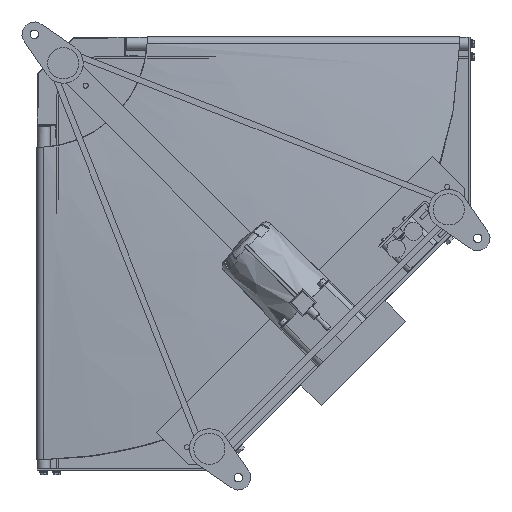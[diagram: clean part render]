
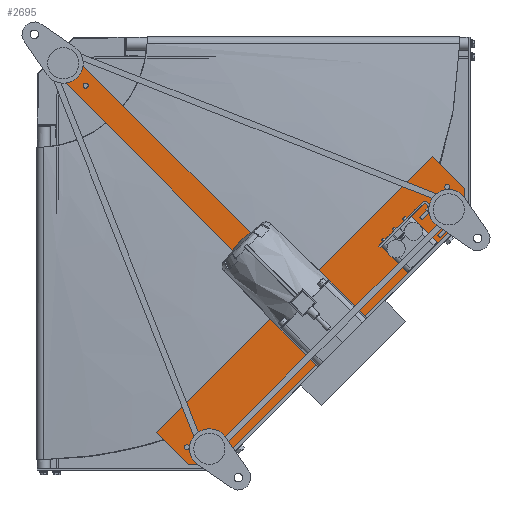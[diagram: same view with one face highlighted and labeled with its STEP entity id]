
A CAD part, front view. The second image highlights one B-rep face of the part: STEP entity #2695.
In plain terms, the highlighted planar face has unit normal (0, -1, 0).
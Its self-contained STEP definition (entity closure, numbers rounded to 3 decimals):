
#2695=ADVANCED_FACE('',(#6698),#6697,.T.);
#6697=PLANE('',#15779);
#6698=FACE_OUTER_BOUND('',#15780,.T.);
#15776=CARTESIAN_POINT('',(5.203,-167.5,-5.203));
#15777=DIRECTION('',(0.,-1.,0.));
#15778=DIRECTION('',(0.,0.,-1.));
#15779=AXIS2_PLACEMENT_3D('',#15776,#15777,#15778);
#15780=EDGE_LOOP('',(#25325,#25326,#25327,#25328,#25329,#25330,#25331,#25332,#25333,#25334));
#25325=ORIENTED_EDGE('',*,*,#29583,.F.);
#25326=ORIENTED_EDGE('',*,*,#29587,.F.);
#25327=ORIENTED_EDGE('',*,*,#29565,.F.);
#25328=ORIENTED_EDGE('',*,*,#29573,.F.);
#25329=ORIENTED_EDGE('',*,*,#29588,.F.);
#25330=ORIENTED_EDGE('',*,*,#29589,.F.);
#25331=ORIENTED_EDGE('',*,*,#29569,.F.);
#25332=ORIENTED_EDGE('',*,*,#29590,.F.);
#25333=ORIENTED_EDGE('',*,*,#29591,.F.);
#25334=ORIENTED_EDGE('',*,*,#29559,.F.);
#29559=EDGE_CURVE('',#36587,#36588,#36589,.T.);
#29565=EDGE_CURVE('',#36629,#36630,#36631,.T.);
#29569=EDGE_CURVE('',#36657,#36658,#36659,.T.);
#29573=EDGE_CURVE('',#36685,#36629,#36686,.T.);
#29583=EDGE_CURVE('',#36752,#36587,#36753,.T.);
#29587=EDGE_CURVE('',#36630,#36752,#36778,.T.);
#29588=EDGE_CURVE('',#36784,#36685,#36785,.T.);
#29589=EDGE_CURVE('',#36658,#36784,#36791,.T.);
#29590=EDGE_CURVE('',#36797,#36657,#36798,.T.);
#29591=EDGE_CURVE('',#36588,#36797,#36804,.T.);
#36587=VERTEX_POINT('',#51565);
#36588=VERTEX_POINT('',#51566);
#36589=LINE('',#51567,#51568);
#36629=VERTEX_POINT('',#51591);
#36630=VERTEX_POINT('',#51592);
#36631=LINE('',#51593,#51594);
#36657=VERTEX_POINT('',#51607);
#36658=VERTEX_POINT('',#51608);
#36659=LINE('',#51609,#51610);
#36685=VERTEX_POINT('',#51623);
#36686=LINE('',#51624,#51625);
#36752=VERTEX_POINT('',#51660);
#36753=LINE('',#51661,#51662);
#36778=LINE('',#51674,#51675);
#36784=VERTEX_POINT('',#51677);
#36785=LINE('',#51678,#51679);
#36791=LINE('',#51681,#51682);
#36797=VERTEX_POINT('',#51684);
#36798=LINE('',#51685,#51686);
#36804=LINE('',#51688,#51689);
#51565=CARTESIAN_POINT('',(15.203,-167.5,-42.073));
#51566=CARTESIAN_POINT('',(42.073,-167.5,-15.203));
#51567=CARTESIAN_POINT('',(15.203,-167.5,-42.073));
#51568=VECTOR('',#51569,38.);
#51569=DIRECTION('',(0.707,0.,0.707));
#51591=CARTESIAN_POINT('',(232.638,-167.5,-656.902));
#51592=CARTESIAN_POINT('',(183.141,-167.5,-607.405));
#51593=CARTESIAN_POINT('',(232.638,-167.5,-656.902));
#51594=VECTOR('',#51595,70.);
#51595=DIRECTION('',(-0.707,0.,0.707));
#51607=CARTESIAN_POINT('',(607.405,-167.5,-183.141));
#51608=CARTESIAN_POINT('',(656.902,-167.5,-232.638));
#51609=CARTESIAN_POINT('',(607.405,-167.5,-183.141));
#51610=VECTOR('',#51611,70.);
#51611=DIRECTION('',(0.707,0.,-0.707));
#51623=CARTESIAN_POINT('',(275.065,-167.5,-656.902));
#51624=CARTESIAN_POINT('',(275.065,-167.5,-656.902));
#51625=VECTOR('',#51626,42.426);
#51626=DIRECTION('',(-1.,0.,0.));
#51660=CARTESIAN_POINT('',(381.838,-167.5,-408.708));
#51661=CARTESIAN_POINT('',(381.838,-167.5,-408.708));
#51662=VECTOR('',#51663,518.5);
#51663=DIRECTION('',(-0.707,0.,0.707));
#51674=CARTESIAN_POINT('',(183.141,-167.5,-607.405));
#51675=VECTOR('',#51676,281.);
#51676=DIRECTION('',(0.707,0.,0.707));
#51677=CARTESIAN_POINT('',(656.902,-167.5,-275.065));
#51678=CARTESIAN_POINT('',(656.902,-167.5,-275.065));
#51679=VECTOR('',#51680,540.);
#51680=DIRECTION('',(-0.707,0.,-0.707));
#51681=CARTESIAN_POINT('',(656.902,-167.5,-232.638));
#51682=VECTOR('',#51683,42.426);
#51683=DIRECTION('',(0.,0.,-1.));
#51684=CARTESIAN_POINT('',(408.708,-167.5,-381.838));
#51685=CARTESIAN_POINT('',(408.708,-167.5,-381.838));
#51686=VECTOR('',#51687,281.);
#51687=DIRECTION('',(0.707,0.,0.707));
#51688=CARTESIAN_POINT('',(42.073,-167.5,-15.203));
#51689=VECTOR('',#51690,518.5);
#51690=DIRECTION('',(0.707,0.,-0.707));
